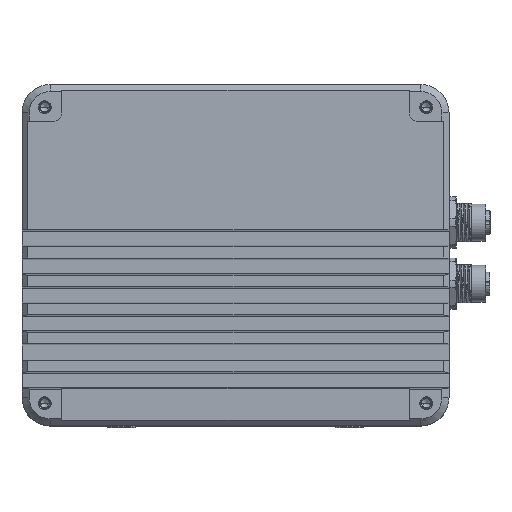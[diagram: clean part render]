
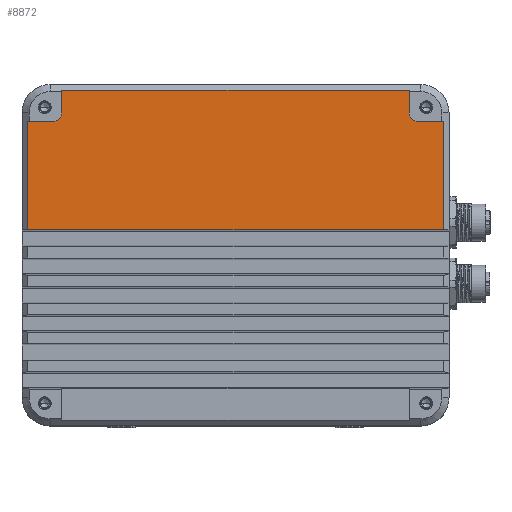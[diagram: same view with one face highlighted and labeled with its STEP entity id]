
A CAD part, top view. The second image highlights one B-rep face of the part: STEP entity #8872.
In plain terms, the highlighted planar face has unit normal (0, 0, 1).
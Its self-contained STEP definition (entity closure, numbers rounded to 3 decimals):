
#533=CARTESIAN_POINT('',(-64.,50.,45.));
#534=DIRECTION('',(0.,0.,1.));
#535=DIRECTION('',(0.,-1.,0.));
#536=AXIS2_PLACEMENT_3D('',#533,#534,#535);
#541=DIRECTION('',(1.,0.,0.));
#542=VECTOR('',#541,121.948);
#543=CARTESIAN_POINT('',(-60.974,58.,45.));
#544=LINE('',#543,#542);
#548=CARTESIAN_POINT('',(64.,50.,45.));
#549=DIRECTION('',(0.,0.,1.));
#550=DIRECTION('',(-1.,0.,0.));
#551=AXIS2_PLACEMENT_3D('',#548,#549,#550);
#556=DIRECTION('',(-1.,0.,0.));
#557=VECTOR('',#556,146.);
#558=CARTESIAN_POINT('',(73.,9.,45.));
#559=LINE('',#558,#557);
#563=DIRECTION('',(0.,1.,0.));
#564=VECTOR('',#563,37.974);
#565=CARTESIAN_POINT('',(-73.,9.,45.));
#566=LINE('',#565,#564);
#570=DIRECTION('',(1.,0.,0.));
#571=VECTOR('',#570,9.);
#572=CARTESIAN_POINT('',(-73.,46.974,45.));
#573=LINE('',#572,#571);
#665=DIRECTION('',(0.,1.,0.));
#666=VECTOR('',#665,8.);
#667=CARTESIAN_POINT('',(-60.974,50.,45.));
#668=LINE('',#667,#666);
#746=DIRECTION('',(0.,-1.,0.));
#747=VECTOR('',#746,8.);
#748=CARTESIAN_POINT('',(60.974,58.,45.));
#749=LINE('',#748,#747);
#842=DIRECTION('',(0.,-1.,0.));
#843=VECTOR('',#842,37.974);
#844=CARTESIAN_POINT('',(73.,46.974,45.));
#845=LINE('',#844,#843);
#891=DIRECTION('',(1.,0.,0.));
#892=VECTOR('',#891,9.);
#893=CARTESIAN_POINT('',(64.,46.974,45.));
#894=LINE('',#893,#892);
#7568=CARTESIAN_POINT('',(-73.,9.,45.));
#7569=VERTEX_POINT('',#7568);
#7570=CARTESIAN_POINT('',(73.,9.,45.));
#7571=VERTEX_POINT('',#7570);
#7578=CARTESIAN_POINT('',(-73.,46.974,45.));
#7579=VERTEX_POINT('',#7578);
#7586=CARTESIAN_POINT('',(-60.974,58.,45.));
#7587=CARTESIAN_POINT('',(60.974,58.,45.));
#7588=VERTEX_POINT('',#7586);
#7589=VERTEX_POINT('',#7587);
#7600=CARTESIAN_POINT('',(-64.,46.974,45.));
#7601=VERTEX_POINT('',#7600);
#7602=CARTESIAN_POINT('',(73.,46.974,45.));
#7603=VERTEX_POINT('',#7602);
#7604=CARTESIAN_POINT('',(64.,46.974,45.));
#7605=VERTEX_POINT('',#7604);
#7606=CARTESIAN_POINT('',(60.974,50.,45.));
#7607=VERTEX_POINT('',#7606);
#7608=CARTESIAN_POINT('',(-60.974,50.,45.));
#7609=VERTEX_POINT('',#7608);
#8848=CARTESIAN_POINT('',(0.,33.5,45.));
#8849=DIRECTION('',(0.,0.,1.));
#8850=DIRECTION('',(1.,0.,0.));
#8851=AXIS2_PLACEMENT_3D('',#8848,#8849,#8850);
#8852=PLANE('',#8851);
#8854=ORIENTED_EDGE('',*,*,#8853,.T.);
#8856=ORIENTED_EDGE('',*,*,#8855,.T.);
#8858=ORIENTED_EDGE('',*,*,#8857,.T.);
#8859=ORIENTED_EDGE('',*,*,#8820,.T.);
#8861=ORIENTED_EDGE('',*,*,#8860,.T.);
#8863=ORIENTED_EDGE('',*,*,#8862,.T.);
#8865=ORIENTED_EDGE('',*,*,#8864,.T.);
#8867=ORIENTED_EDGE('',*,*,#8866,.T.);
#8868=ORIENTED_EDGE('',*,*,#8745,.T.);
#8869=ORIENTED_EDGE('',*,*,#8776,.T.);
#8870=EDGE_LOOP('',(#8854,#8856,#8858,#8859,#8861,#8863,#8865,#8867,#8868,
#8869));
#8871=FACE_OUTER_BOUND('',#8870,.F.);
#8872=ADVANCED_FACE('',(#8871),#8852,.T.);
#537=CIRCLE('',#536,3.026);
#552=CIRCLE('',#551,3.026);
#8745=EDGE_CURVE('',#7571,#7569,#559,.T.);
#8776=EDGE_CURVE('',#7569,#7579,#566,.T.);
#8820=EDGE_CURVE('',#7588,#7589,#544,.T.);
#8853=EDGE_CURVE('',#7579,#7601,#573,.T.);
#8855=EDGE_CURVE('',#7601,#7609,#537,.T.);
#8857=EDGE_CURVE('',#7609,#7588,#668,.T.);
#8860=EDGE_CURVE('',#7589,#7607,#749,.T.);
#8862=EDGE_CURVE('',#7607,#7605,#552,.T.);
#8864=EDGE_CURVE('',#7605,#7603,#894,.T.);
#8866=EDGE_CURVE('',#7603,#7571,#845,.T.);
